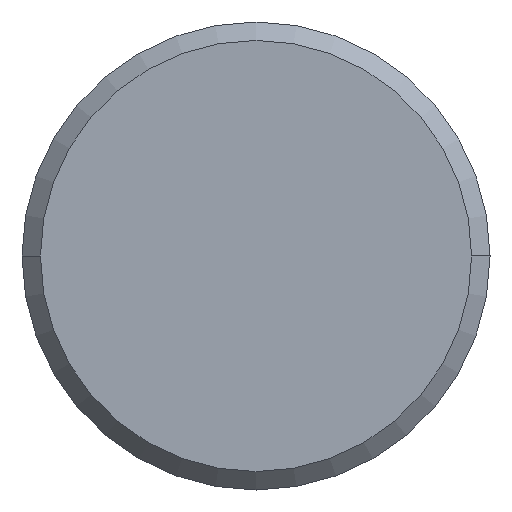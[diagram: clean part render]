
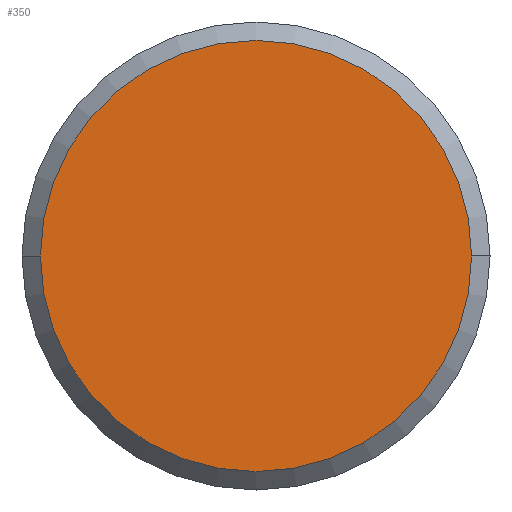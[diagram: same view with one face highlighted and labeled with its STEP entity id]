
A CAD part, left-side view. The second image highlights one B-rep face of the part: STEP entity #350.
In plain terms, the highlighted planar face has unit normal (-1, 0, 0).
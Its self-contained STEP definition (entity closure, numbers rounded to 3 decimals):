
#7 = EDGE_CURVE ( 'NONE', #262, #275, #288, .T. ) ;
#18 = CARTESIAN_POINT ( 'NONE',  ( -49.8, 0., 0. ) ) ;
#32 = EDGE_CURVE ( 'NONE', #275, #262, #225, .T. ) ;
#41 = ORIENTED_EDGE ( 'NONE', *, *, #7, .F. ) ;
#98 = CARTESIAN_POINT ( 'NONE',  ( -49.8, 0., 0. ) ) ;
#117 = CARTESIAN_POINT ( 'NONE',  ( -49.8, -5.85, 0. ) ) ;
#123 = DIRECTION ( 'NONE',  ( 0., -1., 0. ) ) ;
#124 = AXIS2_PLACEMENT_3D ( 'NONE', #337, #137, #364 ) ;
#130 = EDGE_LOOP ( 'NONE', ( #344, #41 ) ) ;
#132 = DIRECTION ( 'NONE',  ( 0., 1., 0. ) ) ;
#137 = DIRECTION ( 'NONE',  ( 1., 0., 0. ) ) ;
#160 = FACE_OUTER_BOUND ( 'NONE', #130, .T. ) ;
#225 = CIRCLE ( 'NONE', #124, 5.85 ) ;
#262 = VERTEX_POINT ( 'NONE', #117 ) ;
#275 = VERTEX_POINT ( 'NONE', #315 ) ;
#288 = CIRCLE ( 'NONE', #392, 5.85 ) ;
#315 = CARTESIAN_POINT ( 'NONE',  ( -49.8, 5.85, 0. ) ) ;
#320 = DIRECTION ( 'NONE',  ( -1., 0., 0. ) ) ;
#333 = DIRECTION ( 'NONE',  ( 1., 0., 0. ) ) ;
#337 = CARTESIAN_POINT ( 'NONE',  ( -49.8, 0., 0. ) ) ;
#344 = ORIENTED_EDGE ( 'NONE', *, *, #32, .F. ) ;
#350 = ADVANCED_FACE ( 'NONE', ( #160 ), #417, .T. ) ;
#351 = AXIS2_PLACEMENT_3D ( 'NONE', #18, #320, #123 ) ;
#364 = DIRECTION ( 'NONE',  ( 0., 1., 0. ) ) ;
#392 = AXIS2_PLACEMENT_3D ( 'NONE', #98, #333, #132 ) ;
#417 = PLANE ( 'NONE',  #351 ) ;
